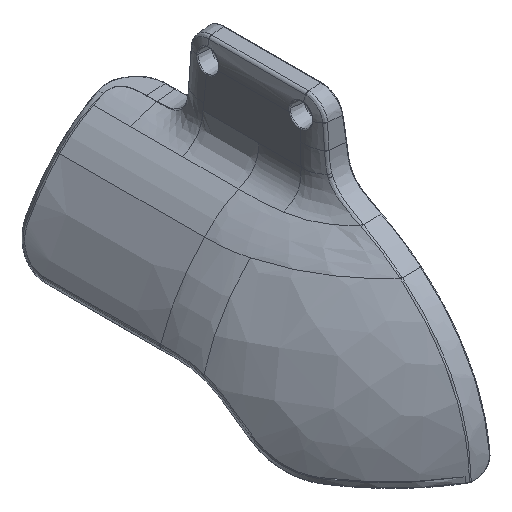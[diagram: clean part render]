
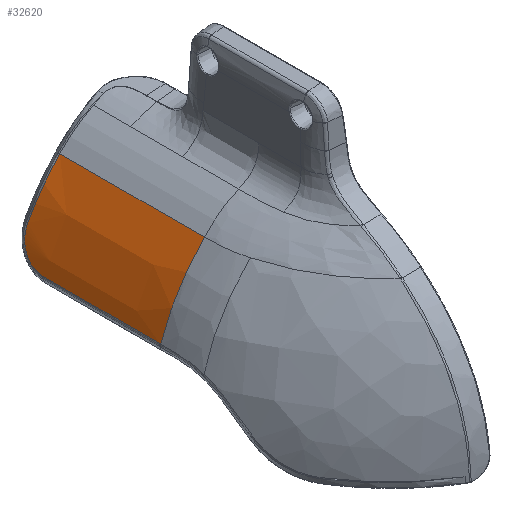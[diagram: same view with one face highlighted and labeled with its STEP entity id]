
A CAD part, isometric view. The second image highlights one B-rep face of the part: STEP entity #32620.
In plain terms, the highlighted face is a extrusion surface.
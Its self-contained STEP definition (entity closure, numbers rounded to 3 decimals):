
#3485=CARTESIAN_POINT('',(124.489,-186.689,186.953));
#10110=DIRECTION('',(0.001,-1.,0.001));
#10111=VECTOR('',#10110,0.236);
#10112=CARTESIAN_POINT('',(124.489,-254.764,
186.953));
#10113=LINE('',#10112,#10111);
#10114=DIRECTION('',(0.,-1.,0.));
#10115=VECTOR('',#10114,68.075);
#10116=CARTESIAN_POINT('',(124.489,-186.689,
186.953));
#10117=LINE('',#10116,#10115);
#10118=CARTESIAN_POINT('',(124.489,-186.689,
186.953));
#10119=CARTESIAN_POINT('',(124.489,-186.155,
186.953));
#10120=CARTESIAN_POINT('',(124.508,-185.093,
187.008));
#10121=CARTESIAN_POINT('',(124.623,-182.979,
187.34));
#10122=CARTESIAN_POINT('',(124.846,-180.983,
187.978));
#10123=CARTESIAN_POINT('',(125.186,-179.094,
188.917));
#10124=CARTESIAN_POINT('',(125.601,-177.321,
190.038));
#10125=CARTESIAN_POINT('',(126.116,-175.772,
191.381));
#10126=CARTESIAN_POINT('',(126.752,-174.426,
192.953));
#10127=CARTESIAN_POINT('',(127.444,-173.273,
194.607));
#10128=CARTESIAN_POINT('',(128.224,-172.384,
196.381));
#10129=CARTESIAN_POINT('',(129.102,-171.754,
198.267));
#10130=CARTESIAN_POINT('',(130.018,-171.315,
200.159));
#10131=CARTESIAN_POINT('',(130.752,-171.184,
201.595));
#10132=CARTESIAN_POINT('',(131.261,-171.185,
202.556));
#10134=CARTESIAN_POINT('',(149.815,-171.183,
228.083));
#10135=CARTESIAN_POINT('',(145.106,-171.183,
223.167));
#10136=CARTESIAN_POINT('',(138.439,-171.184,
214.941));
#10137=CARTESIAN_POINT('',(133.015,-171.185,
205.865));
#10138=CARTESIAN_POINT('',(131.261,-171.185,
202.556));
#10140=DIRECTION('',(0.,-1.,0.));
#10141=VECTOR('',#10140,83.816);
#10142=CARTESIAN_POINT('',(149.815,-171.183,
228.083));
#10143=LINE('',#10142,#10141);
#10163=CARTESIAN_POINT('',(149.815,-255.,
228.083));
#10164=CARTESIAN_POINT('',(145.964,-255.,
224.06));
#10165=CARTESIAN_POINT('',(139.766,-255.,
216.648));
#10166=CARTESIAN_POINT('',(132.375,-255.,
205.072));
#10167=CARTESIAN_POINT('',(127.669,-255.,
195.488));
#10168=CARTESIAN_POINT('',(125.31,-255.,
189.332));
#10169=CARTESIAN_POINT('',(124.489,-255.,
186.953));
#10489=CARTESIAN_POINT('',(149.815,-255.,
228.083));
#10490=VERTEX_POINT('',#10489);
#10782=VERTEX_POINT('',#10169);
#10816=CARTESIAN_POINT('',(124.489,-254.764,
186.953));
#10817=VERTEX_POINT('',#10816);
#10883=CARTESIAN_POINT('',(149.815,-171.183,
228.083));
#10884=VERTEX_POINT('',#10883);
#10924=VERTEX_POINT('',#3485);
#10977=VERTEX_POINT('',#10138);
#32599=CARTESIAN_POINT('',(124.175,-170.68,
186.031));
#32600=CARTESIAN_POINT('',(124.279,-170.68,
186.339));
#32601=CARTESIAN_POINT('',(125.193,-170.68,
189.029));
#32602=CARTESIAN_POINT('',(128.682,-170.68,
198.135));
#32603=CARTESIAN_POINT('',(136.438,-170.68,
212.474));
#32604=CARTESIAN_POINT('',(145.209,-170.68,
223.293));
#32605=CARTESIAN_POINT('',(150.04,-170.68,
228.317));
#32606=CARTESIAN_POINT('',(150.152,-170.68,
228.434));
#32608=DIRECTION('',(0.,1.,0.));
#32609=VECTOR('',#32608,1.);
#32610=SURFACE_OF_LINEAR_EXTRUSION('',#32607,#32609);
#32612=ORIENTED_EDGE('',*,*,#32611,.T.);
#32613=ORIENTED_EDGE('',*,*,#16807,.F.);
#32614=ORIENTED_EDGE('',*,*,#16780,.F.);
#32615=ORIENTED_EDGE('',*,*,#16760,.T.);
#32616=ORIENTED_EDGE('',*,*,#16689,.F.);
#32617=ORIENTED_EDGE('',*,*,#32589,.T.);
#32618=EDGE_LOOP('',(#32612,#32613,#32614,#32615,#32616,#32617));
#32619=FACE_OUTER_BOUND('',#32618,.F.);
#32620=ADVANCED_FACE('',(#32619),#32610,.T.);
#10133=B_SPLINE_CURVE_WITH_KNOTS('',3,(#10118,#10119,#10120,#10121,#10122,
#10123,#10124,#10125,#10126,#10127,#10128,#10129,#10130,#10131,#10132),
.UNSPECIFIED.,.F.,.F.,(4,1,1,1,1,1,1,1,1,1,1,1,4),(0.,0.062,
0.125,0.25,0.312,0.375,
0.5,0.562,0.625,0.75,
0.812,0.875,1.),.UNSPECIFIED.);
#10139=B_SPLINE_CURVE_WITH_KNOTS('',3,(#10134,#10135,#10136,#10137,#10138),
.UNSPECIFIED.,.F.,.F.,(4,1,4),(0.,0.645,1.),.UNSPECIFIED.);
#10170=B_SPLINE_CURVE_WITH_KNOTS('',3,(#10163,#10164,#10165,#10166,#10167,
#10168,#10169),.UNSPECIFIED.,.F.,.F.,(4,1,1,1,4),(0.,0.343,
0.594,0.845,1.),.UNSPECIFIED.);
#16689=EDGE_CURVE('',#10884,#10977,#10139,.T.);
#16760=EDGE_CURVE('',#10924,#10977,#10133,.T.);
#16780=EDGE_CURVE('',#10924,#10817,#10117,.T.);
#16807=EDGE_CURVE('',#10817,#10782,#10113,.T.);
#32589=EDGE_CURVE('',#10884,#10490,#10143,.T.);
#32607=B_SPLINE_CURVE_WITH_KNOTS('',3,(#32599,#32600,#32601,#32602,#32603,
#32604,#32605,#32606),.UNSPECIFIED.,.F.,.F.,(4,1,1,1,1,4),(0.,
0.019,0.17,0.583,0.99,1.),
.UNSPECIFIED.);
#32611=EDGE_CURVE('',#10490,#10782,#10170,.T.);
